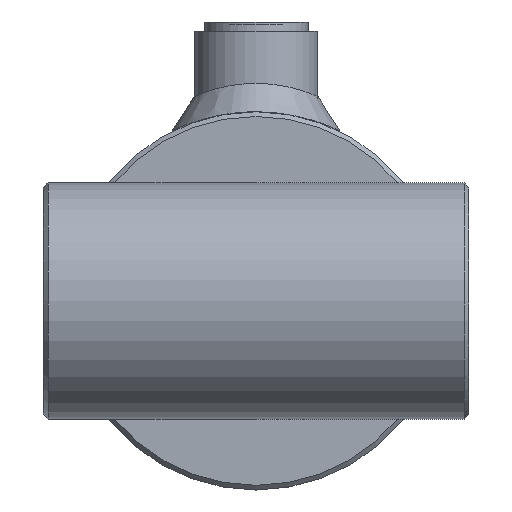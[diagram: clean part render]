
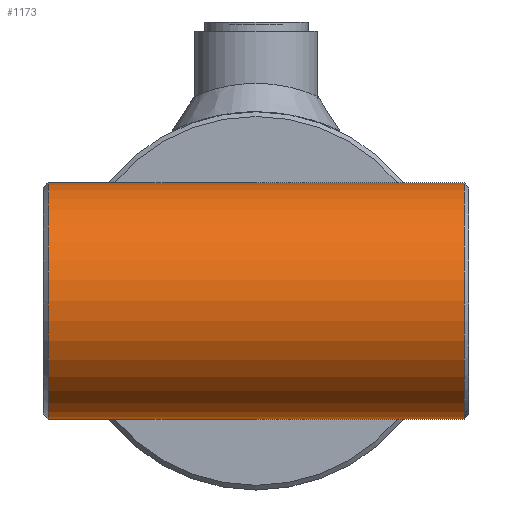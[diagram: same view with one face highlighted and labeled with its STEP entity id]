
A CAD part, left-side view. The second image highlights one B-rep face of the part: STEP entity #1173.
In plain terms, the highlighted cylindrical face has radius 25 mm (diameter 50 mm), a full revolution.
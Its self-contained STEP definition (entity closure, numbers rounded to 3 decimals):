
#1173 = ADVANCED_FACE( '', ( #2221, #2222 ), #2223, .T. );
#2221 = FACE_OUTER_BOUND( '', #8008, .T. );
#2222 = FACE_OUTER_BOUND( '', #8009, .T. );
#2223 = CYLINDRICAL_SURFACE( '', #8010, 25. );
#8008 = EDGE_LOOP( '', ( #11167 ) );
#8009 = EDGE_LOOP( '', ( #11168 ) );
#8010 = AXIS2_PLACEMENT_3D( '', #11169, #11170, #11171 );
#11167 = ORIENTED_EDGE( '', *, *, #12033, .T. );
#11168 = ORIENTED_EDGE( '', *, *, #11946, .T. );
#11169 = CARTESIAN_POINT( '', ( 0., -45., 0. ) );
#11170 = DIRECTION( '', ( 0., -1., 0. ) );
#11171 = DIRECTION( '', ( 0., 0., 1. ) );
#11946 = EDGE_CURVE( '', #12966, #12966, #12967, .T. );
#12033 = EDGE_CURVE( '', #13080, #13080, #13081, .F. );
#12966 = VERTEX_POINT( '', #15364 );
#12967 = CIRCLE( '', #15365, 25. );
#13080 = VERTEX_POINT( '', #15793 );
#13081 = CIRCLE( '', #15794, 25. );
#15364 = CARTESIAN_POINT( '', ( 0., -44., 25. ) );
#15365 = AXIS2_PLACEMENT_3D( '', #16751, #16752, #16753 );
#15793 = CARTESIAN_POINT( '', ( 0., 44., 25. ) );
#15794 = AXIS2_PLACEMENT_3D( '', #16802, #16803, #16804 );
#16751 = CARTESIAN_POINT( '', ( 0., -44., 0. ) );
#16752 = DIRECTION( '', ( 0., 1., 0. ) );
#16753 = DIRECTION( '', ( 0., 0., 1. ) );
#16802 = CARTESIAN_POINT( '', ( 0., 44., 0. ) );
#16803 = DIRECTION( '', ( 0., 1., 0. ) );
#16804 = DIRECTION( '', ( 0., 0., 1. ) );
